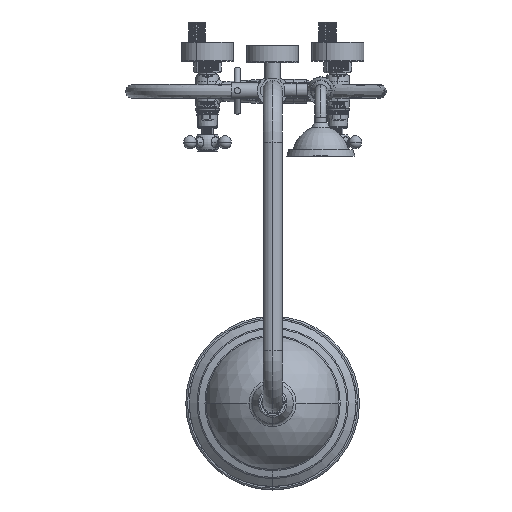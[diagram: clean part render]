
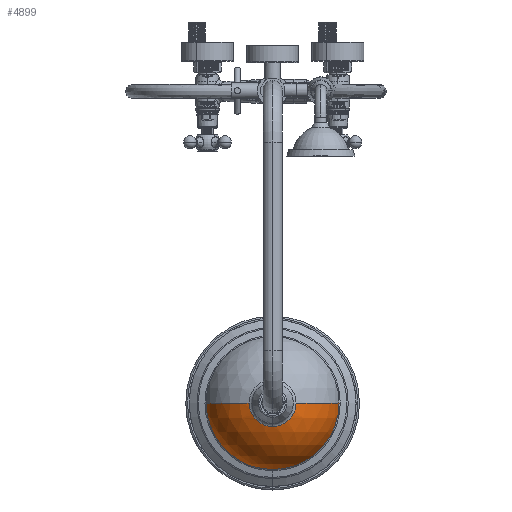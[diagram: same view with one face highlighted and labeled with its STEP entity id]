
A CAD part, top view. The second image highlights one B-rep face of the part: STEP entity #4899.
In plain terms, the highlighted spherical face has radius 79.554 mm.
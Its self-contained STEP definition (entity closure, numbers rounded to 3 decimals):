
#621 = ORIENTED_EDGE ( 'NONE', *, *, #53412, .F. ) ;
#1487 = VERTEX_POINT ( 'NONE', #20574 ) ;
#2007 = AXIS2_PLACEMENT_3D ( 'NONE', #7565, #41619, #47384 ) ;
#3757 = CIRCLE ( 'NONE', #41285, 76.5 ) ;
#3910 = VERTEX_POINT ( 'NONE', #31299 ) ;
#3949 = CARTESIAN_POINT ( 'NONE',  ( 0., 79., 27. ) ) ;
#4899 = ADVANCED_FACE ( 'NONE', ( #17895 ), #63196, .T. ) ;
#5868 = CARTESIAN_POINT ( 'NONE',  ( 0., 4.167, 0. ) ) ;
#6976 = CARTESIAN_POINT ( 'NONE',  ( 27., 79., 0. ) ) ;
#7565 = CARTESIAN_POINT ( 'NONE',  ( 0., 4.167, 0. ) ) ;
#7656 = AXIS2_PLACEMENT_3D ( 'NONE', #5868, #45672, #11611 ) ;
#8429 = CIRCLE ( 'NONE', #20809, 27. ) ;
#9025 = CARTESIAN_POINT ( 'NONE',  ( 0., 4.167, 0. ) ) ;
#9413 = VERTEX_POINT ( 'NONE', #27920 ) ;
#11611 = DIRECTION ( 'NONE',  ( -1., 0., 0. ) ) ;
#11961 = ORIENTED_EDGE ( 'NONE', *, *, #21920, .F. ) ;
#12645 = CARTESIAN_POINT ( 'NONE',  ( 0., 79., 0. ) ) ;
#14333 = DIRECTION ( 'NONE',  ( 0., 1., 0. ) ) ;
#14337 = DIRECTION ( 'NONE',  ( 0., 1., 0. ) ) ;
#14765 = DIRECTION ( 'NONE',  ( 1., 0., 0. ) ) ;
#17895 = FACE_OUTER_BOUND ( 'NONE', #73534, .T. ) ;
#18078 = CIRCLE ( 'NONE', #24471, 27. ) ;
#18360 = VERTEX_POINT ( 'NONE', #6976 ) ;
#18424 = DIRECTION ( 'NONE',  ( 0., 0., 1. ) ) ;
#18553 = ORIENTED_EDGE ( 'NONE', *, *, #62036, .T. ) ;
#20574 = CARTESIAN_POINT ( 'NONE',  ( 0., 26., 76.5 ) ) ;
#20809 = AXIS2_PLACEMENT_3D ( 'NONE', #48392, #14333, #54083 ) ;
#21920 = EDGE_CURVE ( 'NONE', #3910, #9413, #61370, .T. ) ;
#21965 = CIRCLE ( 'NONE', #52272, 79.554 ) ;
#22227 = CIRCLE ( 'NONE', #60118, 76.5 ) ;
#24471 = AXIS2_PLACEMENT_3D ( 'NONE', #12645, #52422, #18424 ) ;
#26469 = CARTESIAN_POINT ( 'NONE',  ( 0., 26., 0. ) ) ;
#27920 = CARTESIAN_POINT ( 'NONE',  ( -27., 79., 0. ) ) ;
#29791 = VERTEX_POINT ( 'NONE', #3949 ) ;
#31299 = CARTESIAN_POINT ( 'NONE',  ( -76.5, 26., 0. ) ) ;
#32148 = DIRECTION ( 'NONE',  ( 0., 0., 1. ) ) ;
#33342 = ORIENTED_EDGE ( 'NONE', *, *, #57951, .T. ) ;
#37107 = VERTEX_POINT ( 'NONE', #52696 ) ;
#37850 = ORIENTED_EDGE ( 'NONE', *, *, #47324, .T. ) ;
#37861 = ORIENTED_EDGE ( 'NONE', *, *, #43414, .F. ) ;
#41285 = AXIS2_PLACEMENT_3D ( 'NONE', #26469, #66179, #32148 ) ;
#41619 = DIRECTION ( 'NONE',  ( 0., 0., -1. ) ) ;
#43414 = EDGE_CURVE ( 'NONE', #29791, #18360, #18078, .T. ) ;
#45672 = DIRECTION ( 'NONE',  ( 0., 0., -1. ) ) ;
#47324 = EDGE_CURVE ( 'NONE', #3910, #1487, #3757, .T. ) ;
#47384 = DIRECTION ( 'NONE',  ( 1., 0., 0. ) ) ;
#48392 = CARTESIAN_POINT ( 'NONE',  ( 0., 79., 0. ) ) ;
#48396 = CARTESIAN_POINT ( 'NONE',  ( 0., 26., 0. ) ) ;
#48834 = DIRECTION ( 'NONE',  ( 0., 0., 1. ) ) ;
#52272 = AXIS2_PLACEMENT_3D ( 'NONE', #9025, #48834, #14765 ) ;
#52422 = DIRECTION ( 'NONE',  ( 0., 1., 0. ) ) ;
#52696 = CARTESIAN_POINT ( 'NONE',  ( 76.5, 26., 0. ) ) ;
#53412 = EDGE_CURVE ( 'NONE', #9413, #29791, #8429, .T. ) ;
#54083 = DIRECTION ( 'NONE',  ( 0., 0., 1. ) ) ;
#54089 = DIRECTION ( 'NONE',  ( 0., 0., 1. ) ) ;
#57951 = EDGE_CURVE ( 'NONE', #1487, #37107, #22227, .T. ) ;
#60118 = AXIS2_PLACEMENT_3D ( 'NONE', #48396, #14337, #54089 ) ;
#61370 = CIRCLE ( 'NONE', #7656, 79.554 ) ;
#62036 = EDGE_CURVE ( 'NONE', #37107, #18360, #21965, .T. ) ;
#63196 = SPHERICAL_SURFACE ( 'NONE', #2007, 79.554 ) ;
#66179 = DIRECTION ( 'NONE',  ( 0., 1., 0. ) ) ;
#73534 = EDGE_LOOP ( 'NONE', ( #11961, #37850, #33342, #18553, #37861, #621 ) ) ;
